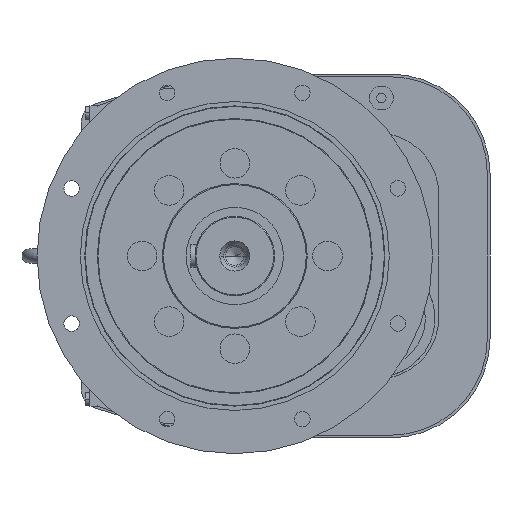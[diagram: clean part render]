
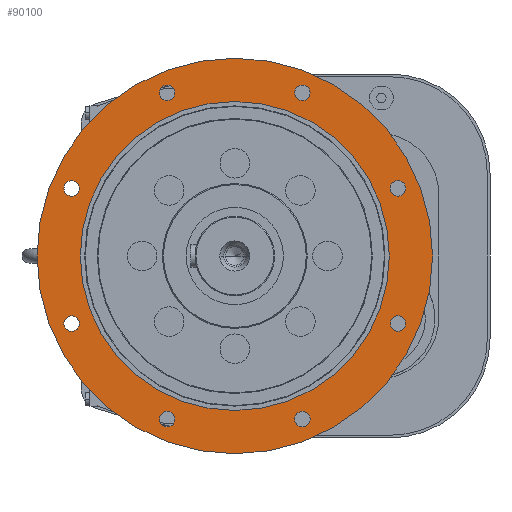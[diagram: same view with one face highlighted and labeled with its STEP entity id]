
A CAD part, left-side view. The second image highlights one B-rep face of the part: STEP entity #90100.
In plain terms, the highlighted planar face has unit normal (-1, 0, 0).
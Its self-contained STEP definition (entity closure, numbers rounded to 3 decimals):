
#82720=CARTESIAN_POINT('',(0.,175.,0.));
#82730=VERTEX_POINT('',#82720);
#82760=CARTESIAN_POINT('',(0.,0.,0.));
#82770=DIRECTION('',(1.,0.,0.));
#82780=DIRECTION('',(0.,-1.,0.));
#82790=AXIS2_PLACEMENT_3D('',#82760,#82770,#82780);
#82800=CIRCLE('',#82790,175.);
#82810=CARTESIAN_POINT('',(0.,-175.,0.));
#82820=VERTEX_POINT('',#82810);
#82830=EDGE_CURVE('',#82730,#82820,#82800,.T.);
#83140=CARTESIAN_POINT('',(0.,76.537,-193.526));
#83150=VERTEX_POINT('',#83140);
#83180=CARTESIAN_POINT('',(0.,76.537,-184.776));
#83190=DIRECTION('',(-1.,0.,0.));
#83200=DIRECTION('',(0.,0.,-1.));
#83210=AXIS2_PLACEMENT_3D('',#83180,#83190,#83200);
#83220=CIRCLE('',#83210,8.75);
#83230=CARTESIAN_POINT('',(0.,76.537,-176.026));
#83240=VERTEX_POINT('',#83230);
#83250=EDGE_CURVE('',#83240,#83150,#83220,.T.);
#84900=CARTESIAN_POINT('',(0.,-223.965,0.));
#84910=VERTEX_POINT('',#84900);
#84990=CARTESIAN_POINT('',(0.,223.965,0.));
#85000=VERTEX_POINT('',#84990);
#85030=CARTESIAN_POINT('',(0.,0.,0.));
#85040=DIRECTION('',(-1.,0.,0.));
#85050=DIRECTION('',(0.,-1.,0.));
#85060=AXIS2_PLACEMENT_3D('',#85030,#85040,#85050);
#85070=CIRCLE('',#85060,223.965);
#85080=EDGE_CURVE('',#85000,#84910,#85070,.T.);
#85840=CARTESIAN_POINT('',(0.,-193.526,-76.537));
#85850=VERTEX_POINT('',#85840);
#85880=CARTESIAN_POINT('',(0.,-184.776,-76.537));
#85890=DIRECTION('',(-1.,0.,0.));
#85900=DIRECTION('',(0.,-1.,0.));
#85910=AXIS2_PLACEMENT_3D('',#85880,#85890,#85900);
#85920=CIRCLE('',#85910,8.75);
#85930=CARTESIAN_POINT('',(0.,-176.026,-76.537));
#85940=VERTEX_POINT('',#85930);
#85950=EDGE_CURVE('',#85940,#85850,#85920,.T.);
#86160=CARTESIAN_POINT('',(0.,193.526,76.537));
#86170=VERTEX_POINT('',#86160);
#86200=CARTESIAN_POINT('',(0.,184.776,76.537));
#86210=DIRECTION('',(-1.,0.,0.));
#86220=DIRECTION('',(0.,1.,0.));
#86230=AXIS2_PLACEMENT_3D('',#86200,#86210,#86220);
#86240=CIRCLE('',#86230,8.75);
#86250=CARTESIAN_POINT('',(0.,176.026,76.537));
#86260=VERTEX_POINT('',#86250);
#86270=EDGE_CURVE('',#86260,#86170,#86240,.T.);
#88370=CARTESIAN_POINT('',(0.,190.963,-82.724));
#88380=VERTEX_POINT('',#88370);
#88410=CARTESIAN_POINT('',(0.,184.776,-76.537));
#88420=DIRECTION('',(-1.,0.,0.));
#88430=DIRECTION('',(0.,0.707,-0.707));
#88440=AXIS2_PLACEMENT_3D('',#88410,#88420,#88430);
#88450=CIRCLE('',#88440,8.75);
#88460=CARTESIAN_POINT('',(0.,178.589,-70.35));
#88470=VERTEX_POINT('',#88460);
#88480=EDGE_CURVE('',#88470,#88380,#88450,.T.);
#88800=CARTESIAN_POINT('',(0.,82.724,190.963));
#88810=VERTEX_POINT('',#88800);
#88840=CARTESIAN_POINT('',(0.,76.537,184.776));
#88850=DIRECTION('',(-1.,0.,0.));
#88860=DIRECTION('',(0.,0.707,0.707));
#88870=AXIS2_PLACEMENT_3D('',#88840,#88850,#88860);
#88880=CIRCLE('',#88870,8.75);
#88890=CARTESIAN_POINT('',(0.,70.35,178.589));
#88900=VERTEX_POINT('',#88890);
#88910=EDGE_CURVE('',#88900,#88810,#88880,.T.);
#89120=CARTESIAN_POINT('',(0.,-76.537,193.526));
#89130=VERTEX_POINT('',#89120);
#89160=CARTESIAN_POINT('',(0.,-76.537,184.776));
#89170=DIRECTION('',(-1.,0.,0.));
#89180=DIRECTION('',(0.,0.,1.));
#89190=AXIS2_PLACEMENT_3D('',#89160,#89170,#89180);
#89200=CIRCLE('',#89190,8.75);
#89210=CARTESIAN_POINT('',(0.,-76.537,176.026));
#89220=VERTEX_POINT('',#89210);
#89230=EDGE_CURVE('',#89220,#89130,#89200,.T.);
#89350=CARTESIAN_POINT('',(0.,200.913,0.));
#89360=DIRECTION('',(1.,0.,0.));
#89370=DIRECTION('',(0.,-1.,0.));
#89380=AXIS2_PLACEMENT_3D('',#89350,#89360,#89370);
#89390=PLANE('',#89380);
#89400=CARTESIAN_POINT('',(0.,-76.537,-184.776));
#89410=DIRECTION('',(-1.,0.,0.));
#89420=DIRECTION('',(0.,-0.707,-0.707));
#89430=AXIS2_PLACEMENT_3D('',#89400,#89410,#89420);
#89440=CIRCLE('',#89430,8.75);
#89450=CARTESIAN_POINT('',(0.,-82.724,-190.963));
#89460=VERTEX_POINT('',#89450);
#89470=CARTESIAN_POINT('',(0.,-70.35,-178.589));
#89480=VERTEX_POINT('',#89470);
#89490=EDGE_CURVE('',#89460,#89480,#89440,.T.);
#89500=ORIENTED_EDGE('',*,*,#89490,.F.);
#89510=EDGE_CURVE('',#89480,#89460,#89440,.T.);
#89520=ORIENTED_EDGE('',*,*,#89510,.F.);
#89530=EDGE_LOOP('',(#89520,#89500));
#89540=FACE_BOUND('',#89530,.T.);
#89550=EDGE_CURVE('',#89130,#89220,#89200,.T.);
#89560=ORIENTED_EDGE('',*,*,#89550,.F.);
#89570=ORIENTED_EDGE('',*,*,#89230,.F.);
#89580=EDGE_LOOP('',(#89570,#89560));
#89590=FACE_BOUND('',#89580,.T.);
#89600=EDGE_CURVE('',#88810,#88900,#88880,.T.);
#89610=ORIENTED_EDGE('',*,*,#89600,.F.);
#89620=ORIENTED_EDGE('',*,*,#88910,.F.);
#89630=EDGE_LOOP('',(#89620,#89610));
#89640=FACE_BOUND('',#89630,.T.);
#89650=EDGE_CURVE('',#86170,#86260,#86240,.T.);
#89660=ORIENTED_EDGE('',*,*,#89650,.F.);
#89670=ORIENTED_EDGE('',*,*,#86270,.F.);
#89680=EDGE_LOOP('',(#89670,#89660));
#89690=FACE_BOUND('',#89680,.T.);
#89700=EDGE_CURVE('',#83150,#83240,#83220,.T.);
#89710=ORIENTED_EDGE('',*,*,#89700,.F.);
#89720=ORIENTED_EDGE('',*,*,#83250,.F.);
#89730=EDGE_LOOP('',(#89720,#89710));
#89740=FACE_BOUND('',#89730,.T.);
#89750=ORIENTED_EDGE('',*,*,#82830,.T.);
#89760=EDGE_CURVE('',#82820,#82730,#82800,.T.);
#89770=ORIENTED_EDGE('',*,*,#89760,.T.);
#89780=EDGE_LOOP('',(#89770,#89750));
#89790=FACE_BOUND('',#89780,.T.);
#89800=EDGE_CURVE('',#85850,#85940,#85920,.T.);
#89810=ORIENTED_EDGE('',*,*,#89800,.F.);
#89820=ORIENTED_EDGE('',*,*,#85950,.F.);
#89830=EDGE_LOOP('',(#89820,#89810));
#89840=FACE_BOUND('',#89830,.T.);
#89850=CARTESIAN_POINT('',(0.,-184.776,76.537));
#89860=DIRECTION('',(-1.,0.,0.));
#89870=DIRECTION('',(0.,-0.707,0.707));
#89880=AXIS2_PLACEMENT_3D('',#89850,#89860,#89870);
#89890=CIRCLE('',#89880,8.75);
#89900=CARTESIAN_POINT('',(0.,-190.963,82.724));
#89910=VERTEX_POINT('',#89900);
#89920=CARTESIAN_POINT('',(0.,-178.589,70.35));
#89930=VERTEX_POINT('',#89920);
#89940=EDGE_CURVE('',#89910,#89930,#89890,.T.);
#89950=ORIENTED_EDGE('',*,*,#89940,.F.);
#89960=EDGE_CURVE('',#89930,#89910,#89890,.T.);
#89970=ORIENTED_EDGE('',*,*,#89960,.F.);
#89980=EDGE_LOOP('',(#89970,#89950));
#89990=FACE_BOUND('',#89980,.T.);
#90000=EDGE_CURVE('',#88380,#88470,#88450,.T.);
#90010=ORIENTED_EDGE('',*,*,#90000,.F.);
#90020=ORIENTED_EDGE('',*,*,#88480,.F.);
#90030=EDGE_LOOP('',(#90020,#90010));
#90040=FACE_BOUND('',#90030,.T.);
#90050=EDGE_CURVE('',#84910,#85000,#85070,.T.);
#90060=ORIENTED_EDGE('',*,*,#90050,.T.);
#90070=ORIENTED_EDGE('',*,*,#85080,.T.);
#90080=EDGE_LOOP('',(#90070,#90060));
#90090=FACE_OUTER_BOUND('',#90080,.T.);
#90100=ADVANCED_FACE('',(#89540,#89590,#89640,#89690,#89740,#89790,#89840,#89990,#90040,#90090),#89390,.F.);
